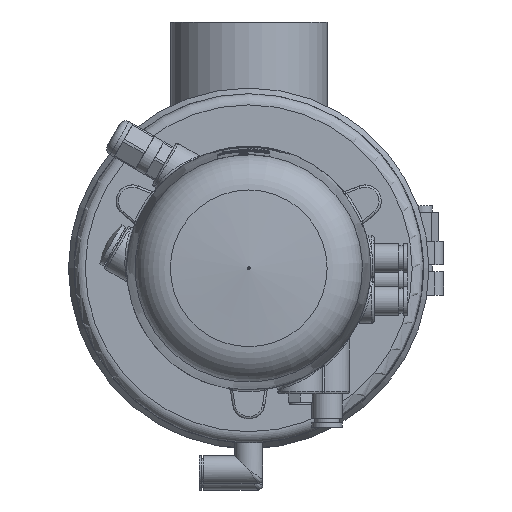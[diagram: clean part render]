
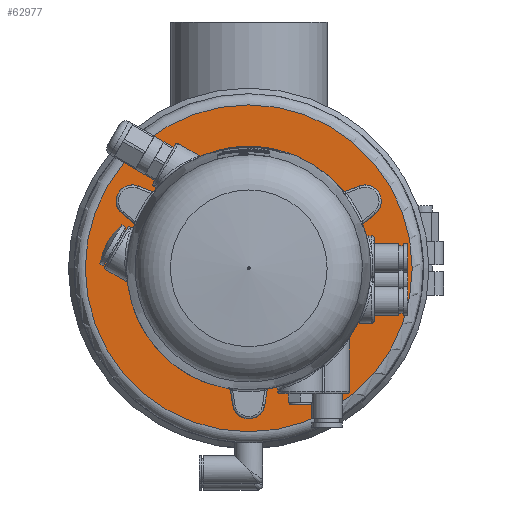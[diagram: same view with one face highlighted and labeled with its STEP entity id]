
A CAD part, front view. The second image highlights one B-rep face of the part: STEP entity #62977.
In plain terms, the highlighted planar face has unit normal (0, -1, 0) as drawn and (0, 1, 0) by its records, which use the part's own axes.
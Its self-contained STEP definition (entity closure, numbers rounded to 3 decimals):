
#266 = FACE_BOUND ( 'NONE', #1275, .T. ) ;
#1275 = EDGE_LOOP ( 'NONE', ( #43730 ) ) ;
#2615 = CARTESIAN_POINT ( 'NONE',  ( 0., 263., 19.6 ) ) ;
#3026 = CIRCLE ( 'NONE', #11427, 2.1 ) ;
#5303 = EDGE_LOOP ( 'NONE', ( #64307 ) ) ;
#5397 = AXIS2_PLACEMENT_3D ( 'NONE', #44287, #24205, #20280 ) ;
#5622 = AXIS2_PLACEMENT_3D ( 'NONE', #10691, #21151, #41197 ) ;
#8721 = CIRCLE ( 'NONE', #5622, 73. ) ;
#8849 = DIRECTION ( 'NONE',  ( 0., 0., 1. ) ) ;
#8945 = CARTESIAN_POINT ( 'NONE',  ( 0., 263., -10. ) ) ;
#9147 = PLANE ( 'NONE',  #5397 ) ;
#10133 = FACE_BOUND ( 'NONE', #32252, .T. ) ;
#10691 = CARTESIAN_POINT ( 'NONE',  ( 0., 263., 0. ) ) ;
#11427 = AXIS2_PLACEMENT_3D ( 'NONE', #59511, #34221, #28323 ) ;
#11784 = EDGE_LOOP ( 'NONE', ( #23853 ) ) ;
#12881 = EDGE_CURVE ( 'NONE', #61661, #61661, #3026, .T. ) ;
#12920 = VERTEX_POINT ( 'NONE', #8945 ) ;
#12937 = AXIS2_PLACEMENT_3D ( 'NONE', #48200, #24157, #43593 ) ;
#16024 = VERTEX_POINT ( 'NONE', #61888 ) ;
#19315 = FACE_OUTER_BOUND ( 'NONE', #5303, .T. ) ;
#19676 = CARTESIAN_POINT ( 'NONE',  ( 0., 263., -15.4 ) ) ;
#20280 = DIRECTION ( 'NONE',  ( 0., 0., -1. ) ) ;
#21151 = DIRECTION ( 'NONE',  ( 0., 1., 0. ) ) ;
#23853 = ORIENTED_EDGE ( 'NONE', *, *, #12881, .F. ) ;
#24157 = DIRECTION ( 'NONE',  ( 0., -1., 0. ) ) ;
#24205 = DIRECTION ( 'NONE',  ( 0., -1., 0. ) ) ;
#24249 = VERTEX_POINT ( 'NONE', #19676 ) ;
#24397 = CIRCLE ( 'NONE', #12937, 10. ) ;
#26085 = EDGE_CURVE ( 'NONE', #16024, #16024, #8721, .T. ) ;
#28323 = DIRECTION ( 'NONE',  ( 0., 0., 1. ) ) ;
#32252 = EDGE_LOOP ( 'NONE', ( #52842 ) ) ;
#33756 = CARTESIAN_POINT ( 'NONE',  ( 0., 263., -17.5 ) ) ;
#34221 = DIRECTION ( 'NONE',  ( 0., 1., 0. ) ) ;
#38148 = AXIS2_PLACEMENT_3D ( 'NONE', #33756, #53804, #8849 ) ;
#39683 = FACE_BOUND ( 'NONE', #11784, .T. ) ;
#40385 = EDGE_CURVE ( 'NONE', #12920, #12920, #24397, .T. ) ;
#41197 = DIRECTION ( 'NONE',  ( 0., 0., -1. ) ) ;
#43593 = DIRECTION ( 'NONE',  ( 0., 0., -1. ) ) ;
#43730 = ORIENTED_EDGE ( 'NONE', *, *, #57057, .F. ) ;
#44287 = CARTESIAN_POINT ( 'NONE',  ( -78., 263., 0. ) ) ;
#48200 = CARTESIAN_POINT ( 'NONE',  ( 0., 263., 0. ) ) ;
#52842 = ORIENTED_EDGE ( 'NONE', *, *, #40385, .T. ) ;
#53804 = DIRECTION ( 'NONE',  ( 0., 1., 0. ) ) ;
#53880 = CIRCLE ( 'NONE', #38148, 2.1 ) ;
#57057 = EDGE_CURVE ( 'NONE', #24249, #24249, #53880, .T. ) ;
#59511 = CARTESIAN_POINT ( 'NONE',  ( 0., 263., 17.5 ) ) ;
#61661 = VERTEX_POINT ( 'NONE', #2615 ) ;
#61888 = CARTESIAN_POINT ( 'NONE',  ( 0., 263., -73. ) ) ;
#62977 = ADVANCED_FACE ( 'NONE', ( #266, #39683, #19315, #10133 ), #9147, .F. ) ;
#64307 = ORIENTED_EDGE ( 'NONE', *, *, #26085, .T. ) ;
